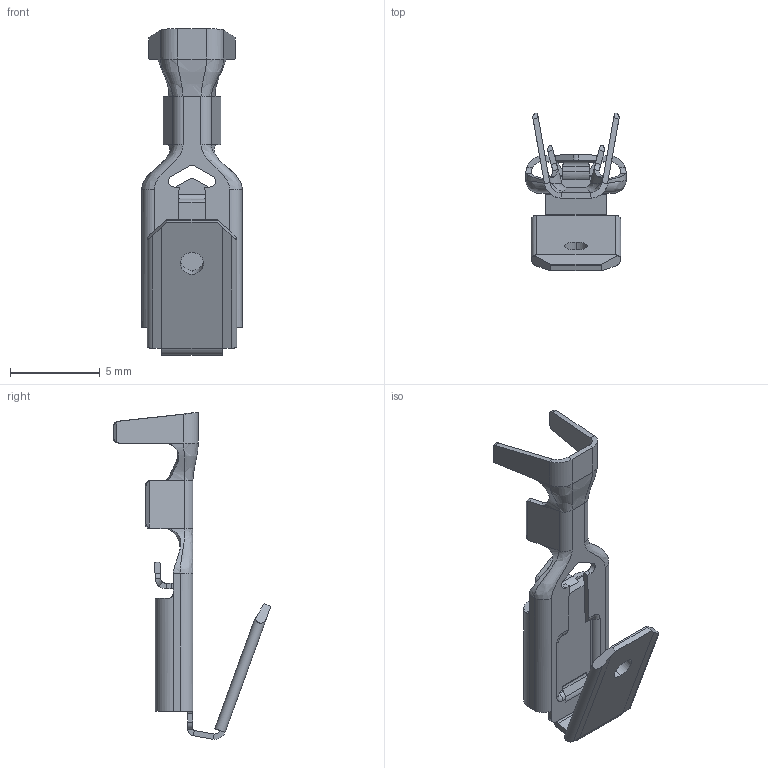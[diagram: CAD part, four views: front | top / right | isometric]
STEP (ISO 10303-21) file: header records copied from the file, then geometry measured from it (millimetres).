
FILE_DESCRIPTION((''),'2;1');
FILE_NAME('PRT0033','2024-05-27T',('ZC'),(''),'PRO/ENGINEER BY PARAMETRIC TECHNOLOGY CORPORATION, 2010280','PRO/ENGINEER BY PARAMETRIC TECHNOLOGY CORPORATION, 2010280','');
FILE_SCHEMA(('CONFIG_CONTROL_DESIGN'));
Length unit declared in the file: millimetre
Products named in the file (1): PRT0033
Bounding box: 5.6 x 8.81 x 18.25 mm (x, y, z)
Volume: 79.6 mm3; surface area: 435.4 mm2
Topology: 1 solids, 1 shells, 233 faces, 581 edges, 345 vertices
Faces by surface type: plane 113, cylinder 68, bspline 42, sphere 4, torus 4, cone 2
Entity records: 11784 total; most frequent: CARTESIAN_POINT 6516, ORIENTED_EDGE 1156, DIRECTION 966, EDGE_CURVE 578, VERTEX_POINT 345, VECTOR 344, LINE 344, AXIS2_PLACEMENT_3D 311
